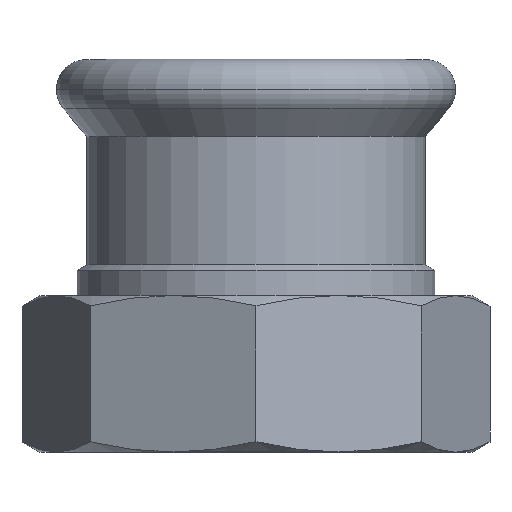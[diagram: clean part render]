
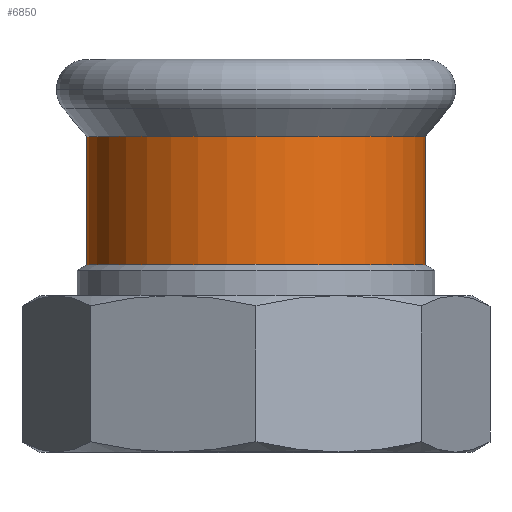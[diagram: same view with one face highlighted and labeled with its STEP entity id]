
A CAD part, top view. The second image highlights one B-rep face of the part: STEP entity #6850.
In plain terms, the highlighted cylindrical face has radius 22.7 mm (diameter 45.4 mm), a partial arc.
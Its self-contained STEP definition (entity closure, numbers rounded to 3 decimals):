
#4980=CARTESIAN_POINT('',(400.472,41.074,
0.));
#4990=VERTEX_POINT('',#4980);
#5070=CARTESIAN_POINT('',(355.072,41.074,0.));
#5080=VERTEX_POINT('',#5070);
#5110=CARTESIAN_POINT('',(377.772,41.074,0.));
#5120=DIRECTION('',(0.,-1.,0.));
#5130=DIRECTION('',(-1.,0.,0.));
#5140=AXIS2_PLACEMENT_3D('',#5110,#5120,#5130);
#5150=CIRCLE('',#5140,22.7);
#5160=EDGE_CURVE('',#4990,#5080,#5150,.T.);
#6300=CARTESIAN_POINT('',(400.472,58.261,0.));
#6310=VERTEX_POINT('',#6300);
#6490=CARTESIAN_POINT('',(355.072,58.261,
0.));
#6500=VERTEX_POINT('',#6490);
#6530=CARTESIAN_POINT('',(377.772,58.261,0.));
#6540=DIRECTION('',(0.,1.,0.));
#6550=DIRECTION('',(-1.,0.,0.));
#6560=AXIS2_PLACEMENT_3D('',#6530,#6540,#6550);
#6570=CIRCLE('',#6560,22.7);
#6630=CARTESIAN_POINT('',(377.772,47.859,0.));
#6640=DIRECTION('',(0.,-1.,0.));
#6650=DIRECTION('',(-1.,0.,0.));
#6660=AXIS2_PLACEMENT_3D('',#6630,#6640,#6650);
#6670=CYLINDRICAL_SURFACE('',#6660,22.7);
#6680=CARTESIAN_POINT('',(355.072,47.859,0.));
#6690=DIRECTION('',(0.,-1.,0.));
#6700=VECTOR('',#6690,1.);
#6710=LINE('',#6680,#6700);
#6720=EDGE_CURVE('',#6500,#5080,#6710,.T.);
#6730=ORIENTED_EDGE('',*,*,#6720,.T.);
#6740=EDGE_CURVE('',#6500,#6310,#6570,.T.);
#6750=ORIENTED_EDGE('',*,*,#6740,.F.);
#6760=CARTESIAN_POINT('',(400.472,47.859,
0.));
#6770=DIRECTION('',(0.,-1.,0.));
#6780=VECTOR('',#6770,1.);
#6790=LINE('',#6760,#6780);
#6800=EDGE_CURVE('',#6310,#4990,#6790,.T.);
#6810=ORIENTED_EDGE('',*,*,#6800,.F.);
#6820=ORIENTED_EDGE('',*,*,#5160,.F.);
#6830=EDGE_LOOP('',(#6820,#6810,#6750,#6730));
#6840=FACE_OUTER_BOUND('',#6830,.T.);
#6850=ADVANCED_FACE('',(#6840),#6670,.T.);
